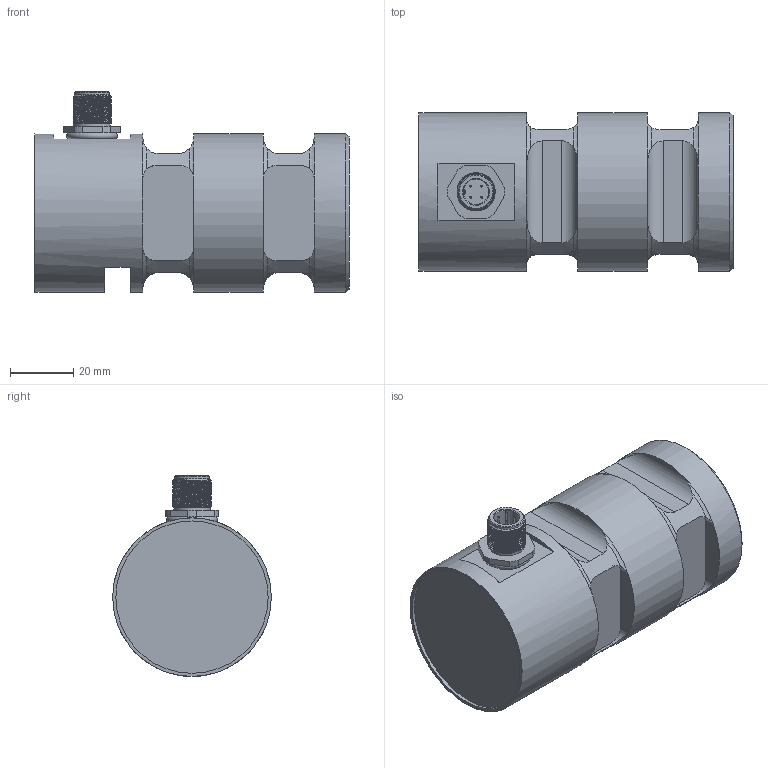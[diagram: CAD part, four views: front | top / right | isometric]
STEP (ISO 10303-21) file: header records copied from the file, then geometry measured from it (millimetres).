
FILE_DESCRIPTION(/* description */ ('Alibre Inc.'),/* implementation_level */ '2;1');
FILE_NAME(/* name */ 'export-96A1EC8C-3720-4633-811D-6EFA40F46DC7',/* time_stamp */ '2019-02-11T11:20:36+01:00',/* author */ (''),/* organization */ (''),/* preprocessor_version */ 'ST-DEVELOPER v17',/* originating_system */ 'Alibre',/* authorisation */ '');
FILE_SCHEMA (('CONFIG_CONTROL_DESIGN'));
Length unit declared in the file: centimetre
Products named in the file (3): ID_1; ID_2
Bounding box: 99 x 50 x 63.32 mm (x, y, z)
Volume: 234106.1 mm3; surface area: 96835.3 mm2
Topology: 6 solids, 7 shells, 201 faces, 469 edges, 290 vertices
Faces by surface type: plane 84, cylinder 69, bspline 23, torus 18, cone 7
Full cylindrical faces by diameter (mm): 0.5 x8, 8 x2, 10 x2, 11 x1, 11.5 x1, 12 x1, 13 x2, 48 x1, 50 x3
Entity records: 18990 total; most frequent: CARTESIAN_POINT 15077, ORIENTED_EDGE 860, DIRECTION 505, EDGE_CURVE 423, VERTEX_POINT 273, EDGE_LOOP 250, FACE_BOUND 250, AXIS2_PLACEMENT_3D 222
